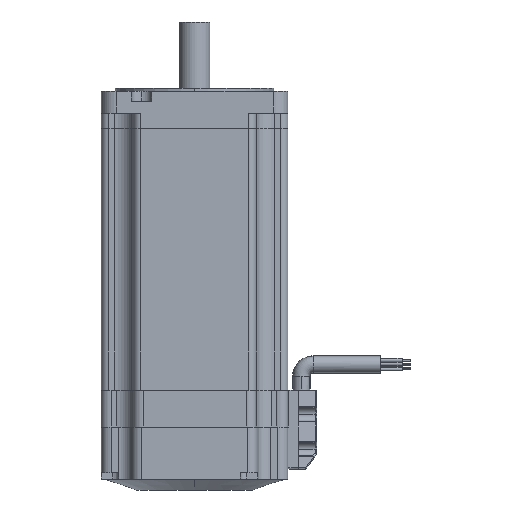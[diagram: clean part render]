
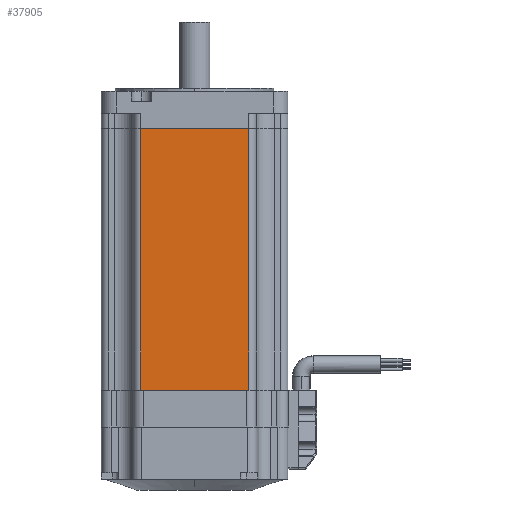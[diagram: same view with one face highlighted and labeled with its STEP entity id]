
A CAD part, front view. The second image highlights one B-rep face of the part: STEP entity #37905.
In plain terms, the highlighted planar face has unit normal (0, -1, 0).
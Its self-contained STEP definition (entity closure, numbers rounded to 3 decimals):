
#41 = VERTEX_POINT ( 'NONE', #1467 ) ;
#76 = DIRECTION ( 'NONE',  ( 1., 0., 0. ) ) ;
#813 = DIRECTION ( 'NONE',  ( 0., 0., -1. ) ) ;
#1467 = CARTESIAN_POINT ( 'NONE',  ( 24.893, -42.95, -60.25 ) ) ;
#2368 = CARTESIAN_POINT ( 'NONE',  ( -24.893, -42.95, -60.25 ) ) ;
#2552 = ORIENTED_EDGE ( 'NONE', *, *, #35759, .T. ) ;
#2796 = CARTESIAN_POINT ( 'NONE',  ( 24.893, -42.95, 60.25 ) ) ;
#3293 = DIRECTION ( 'NONE',  ( 0., 0., -1. ) ) ;
#3551 = VECTOR ( 'NONE', #25023, 1000. ) ;
#4518 = VECTOR ( 'NONE', #813, 1000. ) ;
#4709 = EDGE_CURVE ( 'NONE', #36711, #16920, #27164, .T. ) ;
#5997 = LINE ( 'NONE', #17807, #10711 ) ;
#6483 = FACE_OUTER_BOUND ( 'NONE', #18266, .T. ) ;
#7094 = LINE ( 'NONE', #28197, #3551 ) ;
#9251 = DIRECTION ( 'NONE',  ( -1., 0., 0. ) ) ;
#9306 = ORIENTED_EDGE ( 'NONE', *, *, #16635, .F. ) ;
#10711 = VECTOR ( 'NONE', #76, 1000. ) ;
#11472 = CARTESIAN_POINT ( 'NONE',  ( 24.893, -42.95, 60.25 ) ) ;
#11757 = VERTEX_POINT ( 'NONE', #2796 ) ;
#15542 = DIRECTION ( 'NONE',  ( 0., 1., 0. ) ) ;
#15599 = ORIENTED_EDGE ( 'NONE', *, *, #4709, .T. ) ;
#16635 = EDGE_CURVE ( 'NONE', #11757, #41, #20157, .T. ) ;
#16920 = VERTEX_POINT ( 'NONE', #2368 ) ;
#17807 = CARTESIAN_POINT ( 'NONE',  ( -24.893, -42.95, -60.25 ) ) ;
#18266 = EDGE_LOOP ( 'NONE', ( #2552, #9306, #28268, #15599 ) ) ;
#18291 = CARTESIAN_POINT ( 'NONE',  ( -24.893, -42.95, 60.25 ) ) ;
#20157 = LINE ( 'NONE', #11472, #4518 ) ;
#21063 = CARTESIAN_POINT ( 'NONE',  ( -24.893, -42.95, 60.25 ) ) ;
#21644 = PLANE ( 'NONE',  #37379 ) ;
#22622 = EDGE_CURVE ( 'NONE', #36711, #11757, #7094, .T. ) ;
#23011 = VECTOR ( 'NONE', #3293, 1000. ) ;
#25023 = DIRECTION ( 'NONE',  ( 1., 0., 0. ) ) ;
#27164 = LINE ( 'NONE', #18291, #23011 ) ;
#28197 = CARTESIAN_POINT ( 'NONE',  ( -24.893, -42.95, 60.25 ) ) ;
#28268 = ORIENTED_EDGE ( 'NONE', *, *, #22622, .F. ) ;
#30547 = CARTESIAN_POINT ( 'NONE',  ( -24.893, -42.95, 60.25 ) ) ;
#35759 = EDGE_CURVE ( 'NONE', #16920, #41, #5997, .T. ) ;
#36711 = VERTEX_POINT ( 'NONE', #21063 ) ;
#37379 = AXIS2_PLACEMENT_3D ( 'NONE', #30547, #15542, #9251 ) ;
#37905 = ADVANCED_FACE ( 'NONE', ( #6483 ), #21644, .F. ) ;
